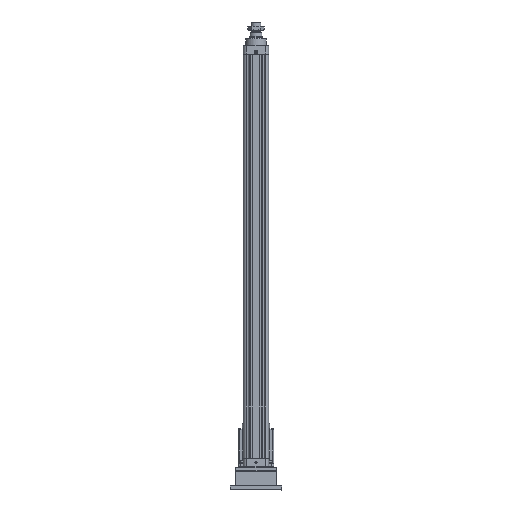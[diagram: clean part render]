
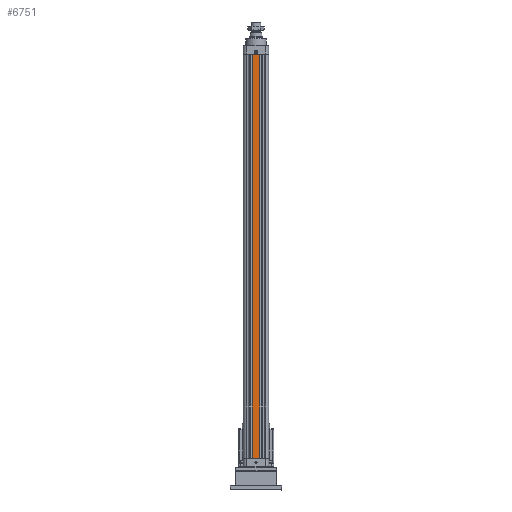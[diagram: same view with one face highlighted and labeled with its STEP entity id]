
A CAD part, top view. The second image highlights one B-rep face of the part: STEP entity #6751.
In plain terms, the highlighted planar face has unit normal (0, 0, 1).
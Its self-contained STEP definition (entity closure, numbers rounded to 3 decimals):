
#3271=DIRECTION('',(1.,0.,0.));
#3272=VECTOR('',#3271,27.8);
#3273=CARTESIAN_POINT('',(-13.9,-744.,46.5));
#3274=LINE('',#3273,#3272);
#3779=DIRECTION('',(1.,0.,0.));
#3780=VECTOR('',#3779,27.8);
#3781=CARTESIAN_POINT('',(-13.9,744.,46.5));
#3782=LINE('',#3781,#3780);
#4285=DIRECTION('',(0.,1.,0.));
#4286=VECTOR('',#4285,1488.);
#4287=CARTESIAN_POINT('',(-13.9,-744.,46.5));
#4288=LINE('',#4287,#4286);
#4289=DIRECTION('',(0.,1.,0.));
#4290=VECTOR('',#4289,1488.);
#4291=CARTESIAN_POINT('',(13.9,-744.,46.5));
#4292=LINE('',#4291,#4290);
#5457=CARTESIAN_POINT('',(-13.9,-744.,46.5));
#5459=VERTEX_POINT('',#5457);
#5473=CARTESIAN_POINT('',(13.9,-744.,46.5));
#5474=VERTEX_POINT('',#5473);
#5489=CARTESIAN_POINT('',(-13.9,744.,46.5));
#5491=VERTEX_POINT('',#5489);
#5505=CARTESIAN_POINT('',(13.9,744.,46.5));
#5506=VERTEX_POINT('',#5505);
#6738=CARTESIAN_POINT('',(-46.5,-744.,46.5));
#6739=DIRECTION('',(0.,0.,1.));
#6740=DIRECTION('',(1.,0.,0.));
#6741=AXIS2_PLACEMENT_3D('',#6738,#6739,#6740);
#6742=PLANE('',#6741);
#6744=ORIENTED_EDGE('',*,*,#6743,.T.);
#6745=ORIENTED_EDGE('',*,*,#6313,.T.);
#6747=ORIENTED_EDGE('',*,*,#6746,.F.);
#6748=ORIENTED_EDGE('',*,*,#5920,.F.);
#6749=EDGE_LOOP('',(#6744,#6745,#6747,#6748));
#6750=FACE_OUTER_BOUND('',#6749,.F.);
#6751=ADVANCED_FACE('',(#6750),#6742,.T.);
#5920=EDGE_CURVE('',#5459,#5474,#3274,.T.);
#6313=EDGE_CURVE('',#5491,#5506,#3782,.T.);
#6743=EDGE_CURVE('',#5459,#5491,#4288,.T.);
#6746=EDGE_CURVE('',#5474,#5506,#4292,.T.);
